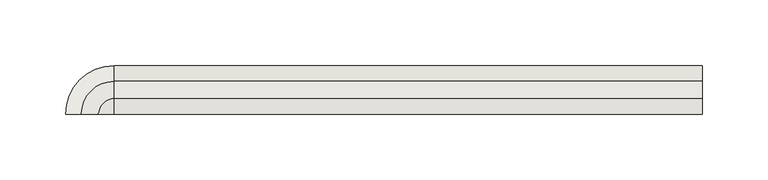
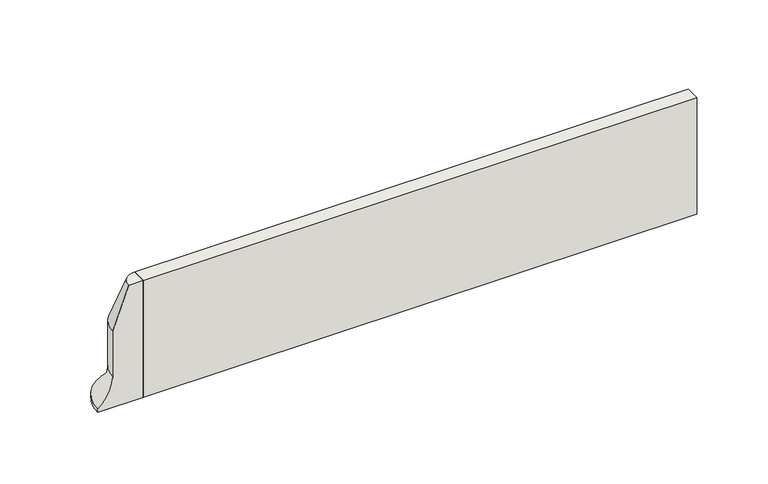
"""IFC4 building model written with IfcOpenShell, lengths in millimetres: wall geometry, GM_PC_UN_ACO kerb PB outside corner_ACO : PB H100 plain."""

from ifc_helpers import new_model, si_unit, point, frame, frame_2d, origin, place, context, project, spatial, polyline, circle_curve, ellipse_curve, trimmed, segment, composite_curve, outline, extrude, source, transform, mapped, element, save
from ifc_brep_helpers import plane_surface, cylinder_surface, revolved_surface, advanced_brep


def wall_3f7bc12b(model_context):
    return source(origin(), model_context, "Body", "SolidModel", [
        extrude(outline(composite_curve([segment(polyline([(25.0, 65.0), (25.0, 26.0)]), True, "CONTINUOUS"), segment(trimmed(circle_curve(frame_2d((54.0104167, 26.0)), 29.0104167), [point((25.0, 26.0))], [point((37.0, 2.5))], True, "CARTESIAN"), True, "CONTINUOUS"), segment(polyline([(37.0, 2.5), (37.0, 0.0), (0.0, 0.0), (0.0, 100.0), (12.0, 100.0), (25.0, 65.0)]), True, "CONTINUOUS")], self_intersect=False)), frame((0.0, 0.0, 0.0), z_axis=(1.0, 0.0, 0.0), x_axis=(0.0, 1.0, 0.0)), (0.0, 0.0, 1.0), 448.0),
        advanced_brep(
        [(0.0, 37.0, 0.0), (0.0, 37.0, 2.5), (0.0, 25.0, 26.0), (0.0, 25.0, 65.0), (0.0, 12.0, 100.0), (0.0, 0.0, 100.0), (0.0, 0.0, 0.0), (-37.0, 0.0, 0.0), (-12.0, 0.0, 100.0), (-25.0, 0.0, 65.0), (-25.0, 0.0, 26.0), (-37.0, 0.0, 2.5)],
        [
            (0, 1),
            (1, 2, circle_curve(frame((0.0, 54.0104167, 26.0), z_axis=(-1.0, 0.0, 0.0), x_axis=(0.0, 1.0, 0.0)), 29.0104167)),
            (2, 3),
            (3, 4),
            (4, 5),
            (5, 6),
            (6, 0),
            (7, 6),
            (5, 8),
            (8, 9),
            (9, 10),
            (10, 11, circle_curve(frame((-54.0104167, 0.0, 26.0), z_axis=(0.0, 1.0, 0.0), x_axis=(-1.0, 0.0, 0.0)), 29.0104167)),
            (11, 7),
            (11, 1, circle_curve(frame((0.0, 0.0, 2.5), z_axis=(0.0, 0.0, -1.0), x_axis=(0.0, 1.0, 0.0)), 37.0)),
            (0, 7, circle_curve(frame((0.0, 0.0, 0.0), z_axis=(0.0, 0.0, 1.0), x_axis=(0.0, 1.0, 0.0)), 37.0)),
            (10, 2, circle_curve(frame((0.0, 0.0, 26.0), z_axis=(0.0, 0.0, -1.0), x_axis=(0.0, 1.0, 0.0)), 25.0)),
            (9, 3, circle_curve(frame((0.0, 0.0, 65.0), z_axis=(0.0, 0.0, -1.0), x_axis=(0.0, 1.0, 0.0)), 25.0)),
            (8, 4, circle_curve(frame((0.0, 0.0, 100.0), z_axis=(0.0, 0.0, -1.0), x_axis=(0.0, 1.0, 0.0)), 12.0)),
        ],
        [
            plane_surface(frame((0.0, 0.0, 460.0), z_axis=(1.0, 0.0, 0.0), x_axis=(0.0, 1.0, 0.0))),
            plane_surface(frame((0.0, 0.0, 460.0), z_axis=(0.0, -1.0, 0.0), x_axis=(-1.0, 0.0, 0.0))),
            cylinder_surface(frame((0.0, 0.0, 460.0), z_axis=(0.0, 0.0, 1.0), x_axis=(0.0, 1.0, 0.0)), 37.0),
            revolved_surface(trimmed(ellipse_curve(frame((0.0, 54.0104167, 26.0), z_axis=(-1.0, 0.0, 0.0), x_axis=(0.0, 1.0, 0.0)), 29.0104167, 29.0104167), [point((0.0, 37.0, 2.5))], [point((0.0, 25.0, 26.0))], True, "CARTESIAN"), (0.0, 0.0, 460.0), (0.0, 0.0, 1.0)),
            cylinder_surface(frame((0.0, 0.0, 460.0), z_axis=(0.0, 0.0, 1.0), x_axis=(0.0, 1.0, 0.0)), 25.0),
            revolved_surface(polyline([(0.0, 25.0, 65.0), (0.0, 12.0, 100.0)]), (0.0, 0.0, 460.0), (0.0, 0.0, 1.0)),
            plane_surface(frame((0.0, 0.0, 100.0), z_axis=(0.0, 0.0, 1.0), x_axis=(0.0, 1.0, 0.0))),
            plane_surface(frame((0.0, 0.0, 0.0), z_axis=(0.0, 0.0, -1.0), x_axis=(0.0, 1.0, 0.0))),
        ],
        [
            (0, [[1, 2, 3, 4, 5, 6, 7]]),
            (1, [[8, -6, 9, 10, 11, 12, 13]]),
            (2, [[14, -1, 15, -13]]),
            (3, [[16, -2, -14, -12]]),
            (4, [[17, -3, -16, -11]]),
            (5, [[18, -4, -17, -10]]),
            (6, [[-5, -18, -9]]),
            (7, [[-15, -7, -8]]),
        ],
    ),
    ])


if __name__ == "__main__":
    model = new_model("IFC4")
    model_context = context("Model", 3, world=origin())
    ifc_project = project(units=[si_unit("LENGTHUNIT", "METRE", prefix="MILLI")], contexts=[model_context])
    site = spatial("IfcSite", under=ifc_project)
    building = spatial("IfcBuilding", under=site)
    placement = place(None, origin())
    wall_shape = wall_3f7bc12b(model_context)
    element("IfcWall", 1, ObjectType="GM_PC_UN_ACO kerb PB outside corner_ACO : PB H100 plain", at=placement, inside=building, context=model_context, shape_type="MappedRepresentation", body=[
        mapped(wall_shape, transform((0.0, 0.0, 0.0), x_axis=(1.0, 0.0, 0.0), y_axis=(0.0, 1.0, 0.0), z_axis=(0.0, 0.0, 1.0))),
    ])
    save(model, "model.ifc")
